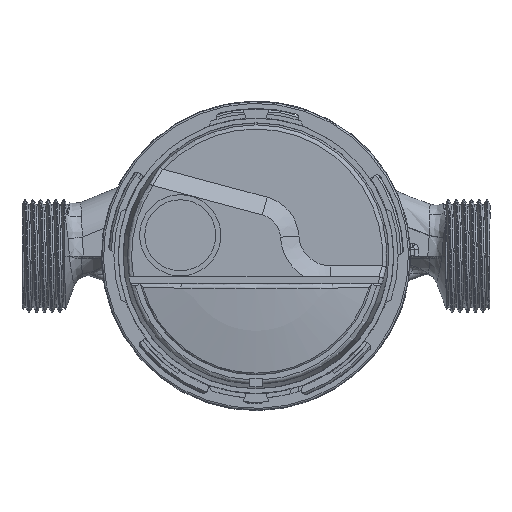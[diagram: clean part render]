
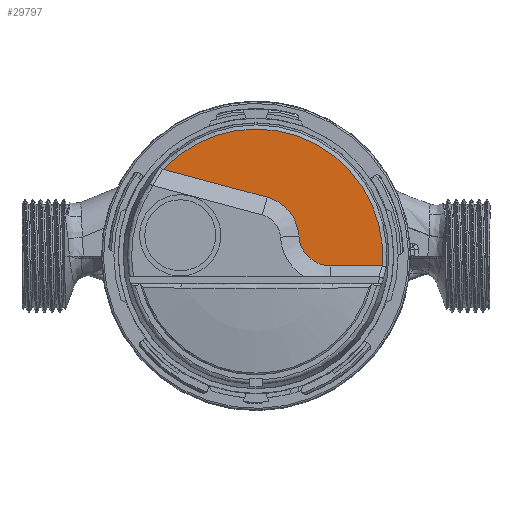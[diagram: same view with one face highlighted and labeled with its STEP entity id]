
A CAD part, top view. The second image highlights one B-rep face of the part: STEP entity #29797.
In plain terms, the highlighted planar face has unit normal (0, 0, 1) as drawn and (0, 1, 0) by its records, which use the part's own axes.
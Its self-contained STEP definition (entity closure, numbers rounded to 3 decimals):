
#395 = LINE ( 'NONE', #68127, #50448 ) ;
#894 = AXIS2_PLACEMENT_3D ( 'NONE', #85204, #115250, #96733 ) ;
#2419 = VERTEX_POINT ( 'NONE', #31082 ) ;
#5053 = EDGE_CURVE ( 'NONE', #110793, #121104, #75048, .T. ) ;
#5600 = CARTESIAN_POINT ( 'NONE',  ( 2.614, 25., -13.756 ) ) ;
#8572 = CARTESIAN_POINT ( 'NONE',  ( 0., 25., -4. ) ) ;
#10701 = CARTESIAN_POINT ( 'NONE',  ( 29.65, 25., 2.402 ) ) ;
#14651 = VECTOR ( 'NONE', #102525, 1000. ) ;
#14990 = AXIS2_PLACEMENT_3D ( 'NONE', #23219, #35250, #44208 ) ;
#15543 = FACE_OUTER_BOUND ( 'NONE', #21296, .T. ) ;
#18964 = AXIS2_PLACEMENT_3D ( 'NONE', #8572, #85240, #75633 ) ;
#21296 = EDGE_LOOP ( 'NONE', ( #102325, #50765, #29672, #77535, #25116, #102758 ) ) ;
#23043 = EDGE_CURVE ( 'NONE', #43907, #110793, #125122, .T. ) ;
#23219 = CARTESIAN_POINT ( 'NONE',  ( 17.566, 25., -5.1 ) ) ;
#23347 = CIRCLE ( 'NONE', #894, 29.772 ) ;
#25116 = ORIENTED_EDGE ( 'NONE', *, *, #23043, .T. ) ;
#26231 = VERTEX_POINT ( 'NONE', #79365 ) ;
#29215 = CARTESIAN_POINT ( 'NONE',  ( 29.674, 25., 2.405 ) ) ;
#29672 = ORIENTED_EDGE ( 'NONE', *, *, #122737, .T. ) ;
#29797 = ADVANCED_FACE ( 'NONE', ( #15543 ), #54430, .T. ) ;
#31082 = CARTESIAN_POINT ( 'NONE',  ( 29.601, 25., 2.4 ) ) ;
#35250 = DIRECTION ( 'NONE',  ( 0., 1., 0. ) ) ;
#38329 = EDGE_CURVE ( 'NONE', #121104, #2419, #395, .T. ) ;
#41883 = CARTESIAN_POINT ( 'NONE',  ( 29.626, 25., 2.4 ) ) ;
#43111 = CARTESIAN_POINT ( 'NONE',  ( 17.566, 25., 2.4 ) ) ;
#43907 = VERTEX_POINT ( 'NONE', #5600 ) ;
#44208 = DIRECTION ( 'NONE',  ( 1., 0., 0. ) ) ;
#44948 = CARTESIAN_POINT ( 'NONE',  ( 10.08, 25., -4.631 ) ) ;
#50448 = VECTOR ( 'NONE', #78335, 1000. ) ;
#50765 = ORIENTED_EDGE ( 'NONE', *, *, #97974, .T. ) ;
#50850 = CARTESIAN_POINT ( 'NONE',  ( 29.674, 25., 2.405 ) ) ;
#54430 = PLANE ( 'NONE',  #14990 ) ;
#59932 = EDGE_CURVE ( 'NONE', #26231, #43907, #83900, .T. ) ;
#65459 = VERTEX_POINT ( 'NONE', #29215 ) ;
#68127 = CARTESIAN_POINT ( 'NONE',  ( 17.566, 25., 2.4 ) ) ;
#73064 = CARTESIAN_POINT ( 'NONE',  ( -40., 25., -25.174 ) ) ;
#75048 = CIRCLE ( 'NONE', #111828, 7.5 ) ;
#75633 = DIRECTION ( 'NONE',  ( 0., 0., 1. ) ) ;
#77535 = ORIENTED_EDGE ( 'NONE', *, *, #59932, .T. ) ;
#77811 = DIRECTION ( 'NONE',  ( 0., 0., 1. ) ) ;
#78335 = DIRECTION ( 'NONE',  ( 1., 0., 0. ) ) ;
#79365 = CARTESIAN_POINT ( 'NONE',  ( -21.784, 25., -20.293 ) ) ;
#83900 = LINE ( 'NONE', #73064, #14651 ) ;
#85204 = CARTESIAN_POINT ( 'NONE',  ( 0., 25., 0. ) ) ;
#85240 = DIRECTION ( 'NONE',  ( 0., -1., 0. ) ) ;
#94434 = B_SPLINE_CURVE_WITH_KNOTS ( 'NONE', 3,
 ( #109092, #41883, #10701, #50850 ),
 .UNSPECIFIED., .F., .F.,
 ( 4, 4 ),
 ( 0., 0. ),
 .UNSPECIFIED. ) ;
#96426 = DIRECTION ( 'NONE',  ( 0., 1., 0. ) ) ;
#96733 = DIRECTION ( 'NONE',  ( 0., 0., 1. ) ) ;
#97040 = CARTESIAN_POINT ( 'NONE',  ( 17.566, 25., -5.1 ) ) ;
#97974 = EDGE_CURVE ( 'NONE', #2419, #65459, #94434, .T. ) ;
#102325 = ORIENTED_EDGE ( 'NONE', *, *, #38329, .T. ) ;
#102525 = DIRECTION ( 'NONE',  ( 0.966, 0., 0.259 ) ) ;
#102758 = ORIENTED_EDGE ( 'NONE', *, *, #5053, .T. ) ;
#109092 = CARTESIAN_POINT ( 'NONE',  ( 29.601, 25., 2.4 ) ) ;
#110793 = VERTEX_POINT ( 'NONE', #44948 ) ;
#111828 = AXIS2_PLACEMENT_3D ( 'NONE', #97040, #96426, #77811 ) ;
#115250 = DIRECTION ( 'NONE',  ( 0., 1., 0. ) ) ;
#121104 = VERTEX_POINT ( 'NONE', #43111 ) ;
#122737 = EDGE_CURVE ( 'NONE', #65459, #26231, #23347, .T. ) ;
#125122 = CIRCLE ( 'NONE', #18964, 10.1 ) ;
